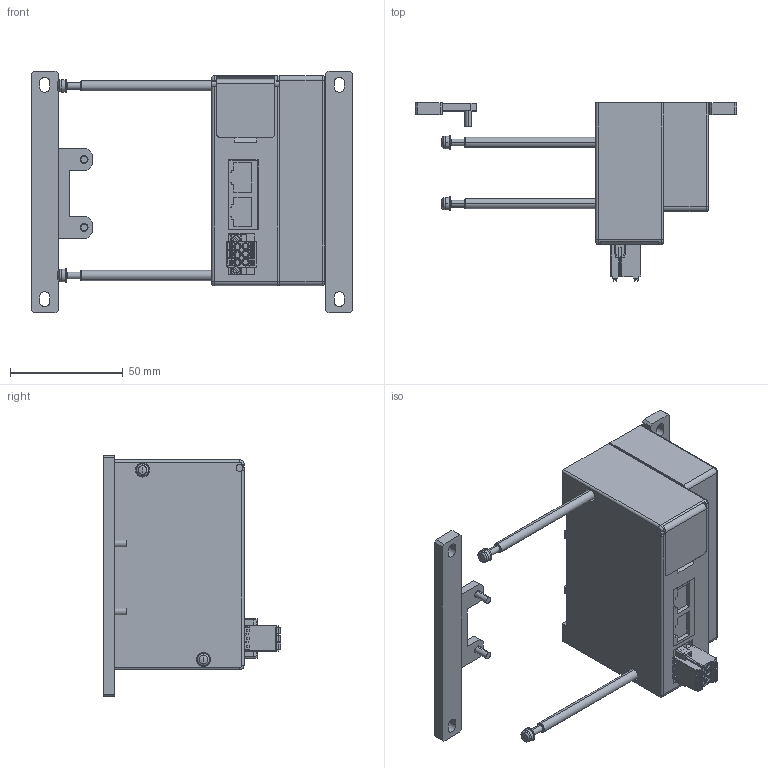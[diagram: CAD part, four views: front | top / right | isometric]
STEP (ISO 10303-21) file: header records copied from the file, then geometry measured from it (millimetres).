
FILE_DESCRIPTION( (''), '2;1');
FILE_NAME ('YS8EK3-3.stp','2022-12-01T14:37:48',(''),(''),'spGate 12.6.6','','');
FILE_SCHEMA (('AUTOMOTIVE_DESIGN'));
Length unit declared in the file: millimetre
Products named in the file (3): Assembly; YS8EK3-3-prt0; YS8EK3-3-prt1
Assembly tree (3 placements, depth 2):
  Assembly
    YS8EK3-3-prt0  x2
    YS8EK3-3-prt1
Bounding box: 142.5 x 78.8 x 107 mm (x, y, z)
Volume: 270649.5 mm3; surface area: 43084.5 mm2
Topology: 3 solids, 3 shells, 825 faces, 2127 edges, 1359 vertices
Faces by surface type: plane 501, cylinder 242, bspline 70, sphere 12
Entity records: 39929 total; most frequent: CARTESIAN_POINT 5493, ORIENTED_EDGE 3950, DIRECTION 3717, COLOUR_RGB 2744, PRESENTATION_STYLE_ASSIGNMENT 2744, STYLED_ITEM 2744, EDGE_CURVE 1975, DRAUGHTING_PRE_DEFINED_CURVE_FONT 1975
